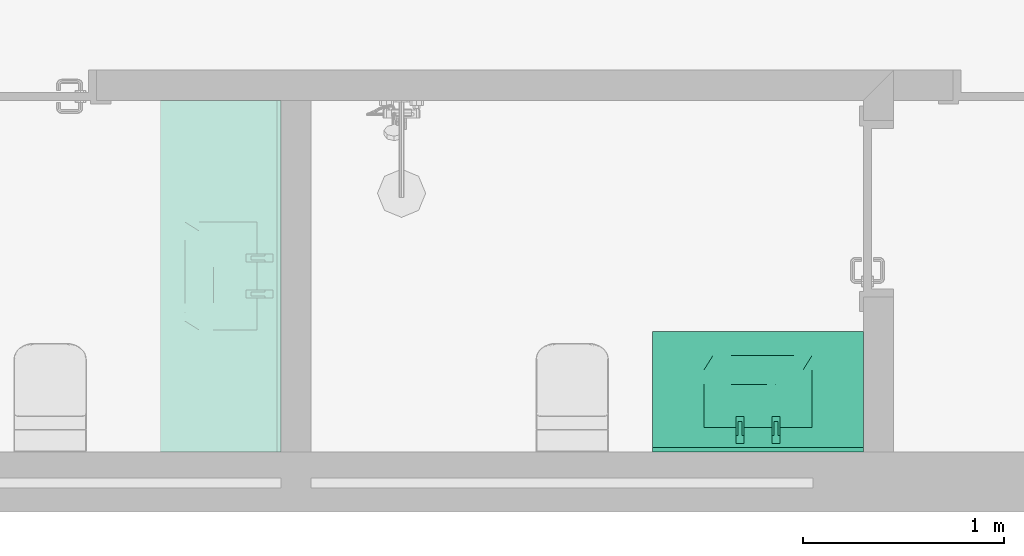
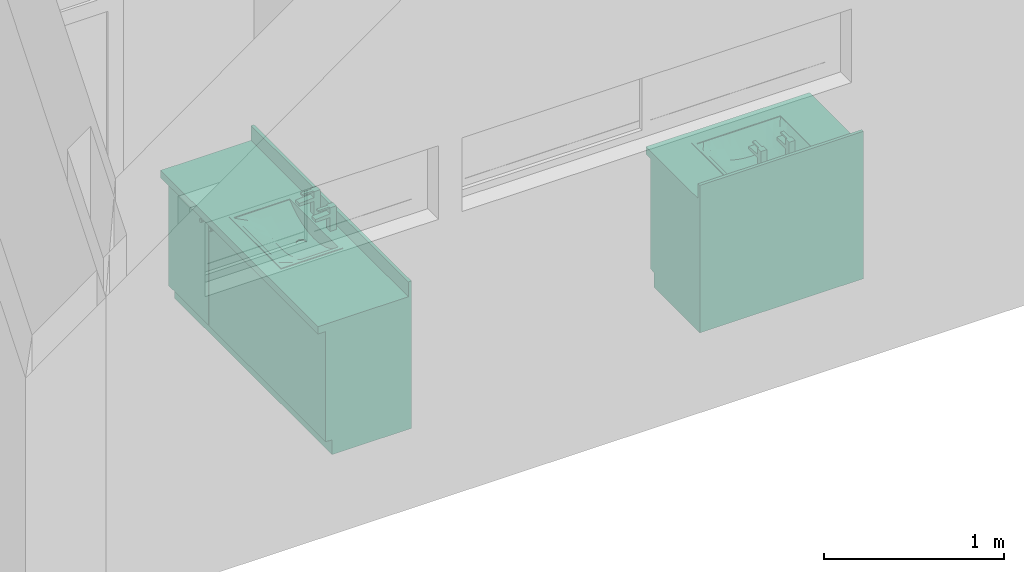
# One storey, part 17 of 26: 2 distribution elements.
"""IFC2X3 building model written with IfcOpenShell, lengths in millimetres."""

from ifc_helpers import new_model, entity, si_unit, converted_unit, money_unit, direction, frame, origin_with_axes, place, context, subcontext, project, spatial, open_shell, faceted_brep, surface_model, material, type_object, element, save


model = new_model("IFC2X3")

# Units and contexts
model_context = context("Model", 3, precision=1e-05, world=origin_with_axes(), true_north=direction((0.0, 1.0)))
body_context = subcontext(model_context, "Body", "Model", "MODEL_VIEW")
ifc_project = project(units=[si_unit("LENGTHUNIT", "METRE", prefix="MILLI"), si_unit("AREAUNIT", "SQUARE_METRE"), si_unit("VOLUMEUNIT", "CUBIC_METRE"), converted_unit("PLANEANGLEUNIT", "DEGREE", entity("IfcPlaneAngleMeasure", 0.0174532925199), si_unit("PLANEANGLEUNIT", "RADIAN"), dimensions=[0, 0, 0, 0, 0, 0, 0]), si_unit("SOLIDANGLEUNIT", "STERADIAN"), money_unit("USD"), converted_unit("TIMEUNIT", "Year", entity("IfcTimeMeasure", 31556926.0), si_unit("TIMEUNIT", "SECOND"), dimensions=[0, 0, 0, 0, 0, 0, 0]), si_unit("MASSUNIT", "GRAM"), si_unit("THERMODYNAMICTEMPERATUREUNIT", "DEGREE_CELSIUS"), si_unit("LUMINOUSINTENSITYUNIT", "LUMEN")], contexts=[model_context])

# Site, building, storey
site_placement = place(None, origin_with_axes())
site = spatial("IfcSite", under=ifc_project, at=site_placement, Name="Grove Residential", CompositionType="ELEMENT")
building_placement = place(site_placement, origin_with_axes())
building = spatial("IfcBuilding", under=site, at=building_placement, Name="Building", CompositionType="ELEMENT")
storey_placement = place(building_placement, origin_with_axes())
storey = spatial("IfcBuildingStorey", under=building, at=storey_placement, Name="Ground Floor", CompositionType="ELEMENT", Elevation=0.0)

# Distribution elements
ifc_material = material(Name="Background")
distribution_element_type = type_object("IfcDistributionElementType", Name="Basin Cabinet 21")
distribution_element_1_placement = place(storey_placement, frame((2050.0, 1900.0, 0.0), z_axis=(0.0, 0.0, 1.0), x_axis=(0.0, -1.0, 0.0)))
element("IfcDistributionElement", 1, at=distribution_element_1_placement, inside=storey, type_object=distribution_element_type, material=ifc_material, Name="FU - 002", context=body_context, shape_type="SurfaceModel", body=[
    faceted_brep([(0.0, 90.0, 0.0), (1750.0, 90.0, 0.0), (1750.0, 90.0, 100.0), (0.0, 90.0, 100.0), (0.0, 600.0, 0.0), (1750.0, 600.0, 0.0), (1750.0, 600.0, 100.0), (0.0, 600.0, 100.0)], [[[0, 1, 2, 3]], [[0, 4, 5, 1]], [[1, 5, 6, 2]], [[3, 2, 6, 7]], [[4, 0, 3, 7]], [[5, 4, 7, 6]]]),
    faceted_brep([(0.0, 70.0, 100.0), (20.0, 70.0, 100.0), (20.0, 70.0, 120.0), (0.0, 70.0, 120.0), (0.0, 600.0, 100.0), (20.0, 600.0, 100.0), (1730.0, 600.0, 100.0), (1750.0, 600.0, 100.0), (1750.0, 70.0, 100.0), (1730.0, 70.0, 100.0), (1730.0, 70.0, 120.0), (1750.0, 70.0, 120.0), (1750.0, 600.0, 120.0), (1730.0, 600.0, 120.0), (20.0, 600.0, 120.0), (0.0, 600.0, 120.0)], [[[0, 1, 2, 3]], [[0, 4, 5, 6, 7, 8, 9, 1]], [[1, 9, 10, 2]], [[3, 2, 10, 11, 12, 13, 14, 15]], [[4, 0, 3, 15]], [[5, 4, 15, 14]], [[6, 5, 14, 13]], [[7, 6, 13, 12]], [[8, 7, 12, 11]], [[9, 8, 11, 10]]]),
    faceted_brep([(0.0, 70.0, 120.0), (20.0, 70.0, 120.0), (20.0, 70.0, 850.0), (0.0, 70.0, 850.0), (0.0, 600.0, 120.0), (1750.0, 600.0, 120.0), (1750.0, 70.0, 120.0), (1730.0, 70.0, 120.0), (1730.0, 580.0, 120.0), (20.0, 580.0, 120.0), (20.0, 580.0, 850.0), (1730.0, 580.0, 850.0), (1730.0, 70.0, 850.0), (1750.0, 70.0, 850.0), (1750.0, 600.0, 850.0), (0.0, 600.0, 850.0)], [[[0, 1, 2, 3]], [[0, 4, 5, 6, 7, 8, 9, 1]], [[1, 9, 10, 2]], [[3, 2, 10, 11, 12, 13, 14, 15]], [[4, 0, 3, 15]], [[5, 4, 15, 14]], [[6, 5, 14, 13]], [[7, 6, 13, 12]], [[8, 7, 12, 11]], [[9, 8, 11, 10]]]),
    faceted_brep([(1730.0, 70.0, 323.333333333), (1730.0, 580.0, 323.333333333), (1730.0, 580.0, 343.333333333), (1730.0, 70.0, 343.333333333), (20.0, 70.0, 323.333333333), (20.0, 580.0, 323.333333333), (20.0, 580.0, 343.333333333), (20.0, 70.0, 343.333333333)], [[[0, 1, 2, 3]], [[0, 4, 5, 1]], [[1, 5, 6, 2]], [[3, 2, 6, 7]], [[4, 0, 3, 7]], [[5, 4, 7, 6]]]),
    faceted_brep([(1730.0, 70.0, 566.666666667), (1730.0, 580.0, 566.666666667), (1730.0, 580.0, 586.666666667), (1730.0, 70.0, 586.666666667), (20.0, 70.0, 566.666666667), (20.0, 580.0, 566.666666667), (20.0, 580.0, 586.666666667), (20.0, 70.0, 586.666666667)], [[[0, 1, 2, 3]], [[0, 4, 5, 1]], [[1, 5, 6, 2]], [[3, 2, 6, 7]], [[4, 0, 3, 7]], [[5, 4, 7, 6]]]),
    faceted_brep([(1750.0, 600.0, 850.0), (1750.0, 0.0, 850.0), (0.0, 0.0, 850.0), (0.0, 600.0, 850.0), (605.0, 120.0, 850.0), (1145.0, 120.0, 850.0), (1145.0, 480.0, 850.0), (605.0, 480.0, 850.0), (1750.0, 600.0, 900.0), (1750.0, 0.0, 900.0), (0.0, 0.0, 900.0), (0.0, 600.0, 900.0), (605.0, 120.0, 900.0), (1145.0, 120.0, 900.0), (1145.0, 480.0, 900.0), (605.0, 480.0, 900.0)], [[[0, 1, 2, 3], [4, 5, 6, 7]], [[8, 9, 1, 0]], [[9, 10, 2, 1]], [[10, 11, 3, 2]], [[11, 8, 0, 3]], [[12, 13, 5, 4]], [[13, 14, 6, 5]], [[14, 15, 7, 6]], [[15, 12, 4, 7]], [[8, 11, 10, 9], [12, 15, 14, 13]]]),
    faceted_brep([(0.0, 580.0, 900.0), (1750.0, 580.0, 900.0), (1750.0, 580.0, 1000.0), (0.0, 580.0, 1000.0), (0.0, 600.0, 900.0), (1750.0, 600.0, 900.0), (1750.0, 600.0, 1000.0), (0.0, 600.0, 1000.0)], [[[0, 1, 2, 3]], [[0, 4, 5, 1]], [[1, 5, 6, 2]], [[3, 2, 6, 7]], [[4, 0, 3, 7]], [[5, 4, 7, 6]]]),
    faceted_brep([(586.0, 101.0, 900.0), (1164.0, 101.0, 900.0), (1164.0, 101.0, 905.0), (586.0, 101.0, 905.0), (586.0, 499.0, 900.0), (1164.0, 499.0, 900.0), (606.0, 121.0, 900.0), (1144.0, 121.0, 900.0), (1144.0, 479.0, 900.0), (606.0, 479.0, 900.0), (1164.0, 499.0, 905.0), (586.0, 499.0, 905.0), (606.0, 121.0, 905.0), (606.0, 479.0, 905.0), (1144.0, 479.0, 905.0), (1144.0, 121.0, 905.0)], [[[0, 1, 2, 3]], [[0, 4, 5, 1], [6, 7, 8, 9]], [[1, 5, 10, 2]], [[3, 2, 10, 11], [12, 13, 14, 15]], [[4, 0, 3, 11]], [[5, 4, 11, 10]], [[7, 6, 12, 15]], [[8, 7, 15, 14]], [[9, 8, 14, 13]], [[6, 9, 13, 12]]]),
    surface_model("IfcShellBasedSurfaceModel", [(847.298862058, 407.4, 801.512410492), (849.019237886, 413.82053, 801.418482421), (860.0, 424.801292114, 800.818961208), (875.0, 428.82053, 800.0), (875.0, 479.0, 800.0), (830.166666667, 479.0, 802.447784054), (830.166666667, 407.4, 802.447784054), (890.0, 424.801292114, 800.818961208), (900.980762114, 413.82053, 801.418482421), (902.701137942, 407.4, 801.512410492), (919.833333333, 407.4, 802.447784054), (919.833333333, 479.0, 802.447784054), (1054.33333333, 479.0, 841.099033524), (1099.16666667, 479.0, 866.359398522), (1144.0, 479.0, 900.0), (606.0, 479.0, 900.0), (650.833333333, 479.0, 866.359398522), (695.666666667, 479.0, 841.099033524), (740.5, 479.0, 822.583844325), (785.333333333, 479.0, 809.880570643), (964.666666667, 479.0, 809.880570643), (1009.5, 479.0, 822.583844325), (785.333333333, 407.4, 809.880570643), (875.0, 368.82053, 800.0), (860.0, 372.839767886, 800.818961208), (849.019237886, 383.82053, 801.418482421), (845.0, 398.82053, 801.637922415), (830.166666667, 335.8, 802.447784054), (875.0, 335.8, 800.0), (905.0, 398.82053, 801.637922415), (900.980762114, 383.82053, 801.418482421), (890.0, 372.839767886, 800.818961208), (919.833333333, 335.8, 802.447784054), (964.666666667, 407.4, 809.880570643), (1054.33333333, 407.4, 841.099033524), (1099.16666667, 407.4, 866.359398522), (1144.0, 407.4, 900.0), (606.0, 407.4, 900.0), (650.833333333, 407.4, 866.359398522), (695.666666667, 407.4, 841.099033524), (740.5, 407.4, 822.583844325), (1009.5, 407.4, 822.583844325), (785.333333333, 335.8, 809.880570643), (830.166666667, 264.2, 813.703778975), (875.0, 264.2, 811.479674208), (964.666666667, 335.8, 809.880570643), (1054.33333333, 335.8, 841.099033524), (1099.16666667, 335.8, 866.359398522), (1144.0, 335.8, 900.0), (1144.0, 264.2, 900.0), (1144.0, 192.6, 900.0), (1144.0, 121.0, 900.0), (606.0, 335.8, 900.0), (606.0, 121.0, 900.0), (606.0, 192.6, 900.0), (606.0, 264.2, 900.0), (650.833333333, 335.8, 866.359398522), (695.666666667, 335.8, 841.099033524), (740.5, 335.8, 822.583844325), (1009.5, 335.8, 822.583844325), (785.333333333, 264.2, 820.44293141), (919.833333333, 264.2, 813.703778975), (1054.33333333, 264.2, 848.489912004), (1099.16666667, 264.2, 870.834422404), (1099.16666667, 192.6, 885.925600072), (1099.16666667, 121.0, 900.0), (650.833333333, 192.6, 885.925600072), (650.833333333, 264.2, 870.834422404), (695.666666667, 264.2, 848.489912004), (740.5, 264.2, 831.908110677), (964.666666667, 264.2, 820.44293141), (1009.5, 264.2, 831.908110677), (785.333333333, 192.6, 859.727879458), (830.166666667, 192.6, 856.053471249), (875.0, 192.6, 854.83231135), (695.666666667, 121.0, 900.0), (650.833333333, 121.0, 900.0), (1054.33333333, 121.0, 900.0), (1009.5, 121.0, 900.0), (964.666666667, 121.0, 900.0), (919.833333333, 121.0, 900.0), (875.0, 121.0, 900.0), (830.166666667, 121.0, 900.0), (785.333333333, 121.0, 900.0), (740.5, 121.0, 900.0), (740.5, 192.6, 865.888816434), (919.833333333, 192.6, 856.053471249), (1009.5, 192.6, 865.888816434), (1054.33333333, 192.6, 874.593452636), (695.666666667, 192.6, 874.593452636), (964.666666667, 192.6, 859.727879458)], [open_shell([[[0, 1, 2, 3, 4, 5, 6]], [[4, 3, 7, 8, 9, 10, 11]], [[12, 13, 14, 15, 16, 17, 18, 19, 5, 4, 11, 20, 21]], [[5, 19, 22, 6]], [[23, 24, 25, 26, 0, 6, 27, 28]], [[9, 29, 30, 31, 23, 28, 32, 10]], [[20, 11, 10, 33]], [[13, 12, 34, 35]], [[14, 13, 35, 36]], [[16, 15, 37, 38]], [[17, 16, 38, 39]], [[18, 17, 39, 40]], [[19, 18, 40, 22]], [[21, 20, 33, 41]], [[12, 21, 41, 34]], [[6, 22, 42, 27]], [[28, 27, 43]], [[32, 28, 44]], [[33, 10, 32, 45]], [[35, 34, 46, 47]], [[36, 35, 47, 48]], [[49, 50, 51, 14, 36, 48]], [[52, 37, 15, 53, 54, 55]], [[38, 37, 52, 56]], [[39, 38, 56, 57]], [[40, 39, 57, 58]], [[22, 40, 58, 42]], [[41, 33, 45, 59]], [[34, 41, 59, 46]], [[27, 42, 60]], [[43, 27, 60]], [[44, 28, 43]], [[61, 32, 44]], [[45, 32, 61]], [[47, 46, 62]], [[48, 47, 63]], [[50, 49, 64]], [[51, 50, 65]], [[49, 48, 63]], [[66, 54, 53]], [[67, 55, 54]], [[56, 52, 55]], [[57, 56, 67]], [[58, 57, 68]], [[42, 58, 69]], [[59, 45, 70]], [[46, 59, 71]], [[60, 42, 69]], [[43, 60, 72]], [[44, 43, 73]], [[61, 44, 74]], [[70, 45, 61]], [[62, 46, 71]], [[63, 47, 62]], [[49, 63, 64]], [[50, 64, 65]], [[75, 76, 53, 51, 65, 77, 78, 79, 80, 81, 82, 83, 84]], [[66, 67, 54]], [[76, 66, 53]], [[67, 56, 55]], [[68, 57, 67]], [[69, 58, 68]], [[71, 59, 70]], [[60, 69, 85]], [[72, 60, 85]], [[73, 43, 72]], [[74, 44, 73]], [[86, 61, 74]], [[70, 61, 86]], [[62, 71, 87]], [[63, 62, 88]], [[64, 63, 88]], [[65, 64, 77]], [[75, 89, 76]], [[77, 88, 78]], [[78, 87, 79]], [[79, 90, 80]], [[80, 86, 81]], [[81, 74, 82]], [[82, 73, 83]], [[83, 72, 84]], [[84, 85, 75]], [[68, 67, 66]], [[89, 66, 76]], [[69, 68, 89]], [[71, 70, 90]], [[85, 69, 89]], [[72, 85, 84]], [[73, 72, 83]], [[74, 73, 82]], [[86, 74, 81]], [[90, 70, 86]], [[87, 71, 90]], [[88, 62, 87]], [[64, 88, 77]], [[85, 89, 75]], [[88, 87, 78]], [[87, 90, 79]], [[90, 86, 80]], [[89, 68, 66]]])]),
    surface_model("IfcShellBasedSurfaceModel", [(900.980762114, 413.82053, 801.418482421), (905.0, 398.82053, 801.637922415), (905.0, 398.82053, 795.0), (900.980762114, 413.82053, 795.0), (900.980762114, 383.82053, 801.418482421), (900.980762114, 383.82053, 795.0), (890.0, 424.801292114, 795.0), (890.0, 372.839767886, 795.0), (875.0, 368.82053, 795.0), (860.0, 372.839767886, 795.0), (849.019237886, 383.82053, 795.0), (845.0, 398.82053, 795.0), (849.019237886, 413.82053, 795.0), (860.0, 424.801292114, 795.0), (875.0, 428.82053, 795.0), (890.0, 424.801292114, 800.818961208), (890.0, 372.839767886, 800.818961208), (875.0, 368.82053, 800.0), (860.0, 372.839767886, 800.818961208), (849.019237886, 383.82053, 801.418482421), (845.0, 398.82053, 801.637922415), (849.019237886, 413.82053, 801.418482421), (860.0, 424.801292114, 800.818961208), (875.0, 428.82053, 800.0)], [open_shell([[[0, 1, 2, 3]], [[1, 4, 5, 2]], [[6, 3, 2, 5, 7, 8, 9, 10, 11, 12, 13, 14]], [[15, 0, 3, 6]], [[4, 16, 7, 5]], [[16, 17, 8, 7]], [[17, 18, 9, 8]], [[18, 19, 10, 9]], [[19, 20, 11, 10]], [[20, 21, 12, 11]], [[21, 22, 13, 12]], [[22, 23, 14, 13]], [[23, 15, 6, 14]]])]),
    faceted_brep([(985.0, 560.0, 900.0), (985.0, 520.0, 900.0), (945.0, 520.0, 900.0), (945.0, 560.0, 900.0), (985.0, 560.0, 1020.0), (985.0, 520.0, 1020.0), (985.0, 425.0, 1013.35695287), (985.0, 425.0, 995.0), (985.0, 520.0, 995.0), (945.0, 520.0, 995.0), (945.0, 425.0, 995.0), (945.0, 425.0, 1013.35695287), (945.0, 520.0, 1020.0), (945.0, 560.0, 1020.0)], [[[0, 1, 2, 3]], [[0, 4, 5, 6, 7, 8, 1]], [[1, 8, 9, 2]], [[3, 2, 9, 10, 11, 12, 13]], [[4, 0, 3, 13]], [[5, 4, 13, 12]], [[6, 5, 12, 11]], [[7, 6, 11, 10]], [[8, 7, 10, 9]]]),
    faceted_brep([(985.0, 560.0, 1020.0), (985.0, 520.0, 1020.0), (945.0, 520.0, 1020.0), (945.0, 560.0, 1020.0), (985.0, 560.0, 1060.0), (985.0, 520.0, 1060.0), (945.0, 520.0, 1060.0), (945.0, 560.0, 1060.0)], [[[0, 1, 2, 3]], [[0, 4, 5, 1]], [[1, 5, 6, 2]], [[3, 2, 6, 7]], [[4, 0, 3, 7]], [[5, 4, 7, 6]]]),
    faceted_brep([(975.0, 520.0, 1050.0), (975.0, 450.0, 1050.0), (955.0, 450.0, 1050.0), (955.0, 520.0, 1050.0), (975.0, 520.0, 1060.0), (975.0, 450.0, 1060.0), (955.0, 450.0, 1060.0), (955.0, 520.0, 1060.0)], [[[0, 1, 2, 3]], [[0, 4, 5, 1]], [[1, 5, 6, 2]], [[3, 2, 6, 7]], [[4, 0, 3, 7]], [[5, 4, 7, 6]]]),
    faceted_brep([(765.0, 560.0, 900.0), (805.0, 560.0, 900.0), (805.0, 520.0, 900.0), (765.0, 520.0, 900.0), (765.0, 560.0, 1020.0), (805.0, 560.0, 1020.0), (805.0, 520.0, 1020.0), (805.0, 425.0, 1013.35695287), (805.0, 425.0, 995.0), (805.0, 520.0, 995.0), (765.0, 520.0, 995.0), (765.0, 425.0, 995.0), (765.0, 425.0, 1013.35695287), (765.0, 520.0, 1020.0)], [[[0, 1, 2, 3]], [[4, 5, 1, 0]], [[1, 5, 6, 7, 8, 9, 2]], [[3, 2, 9, 10]], [[0, 3, 10, 11, 12, 13, 4]], [[13, 6, 5, 4]], [[12, 7, 6, 13]], [[11, 8, 7, 12]], [[10, 9, 8, 11]]]),
    faceted_brep([(765.0, 560.0, 1020.0), (805.0, 560.0, 1020.0), (805.0, 520.0, 1020.0), (765.0, 520.0, 1020.0), (765.0, 560.0, 1060.0), (805.0, 560.0, 1060.0), (805.0, 520.0, 1060.0), (765.0, 520.0, 1060.0)], [[[0, 1, 2, 3]], [[4, 5, 1, 0]], [[1, 5, 6, 2]], [[3, 2, 6, 7]], [[0, 3, 7, 4]], [[7, 6, 5, 4]]]),
    faceted_brep([(775.0, 520.0, 1050.0), (795.0, 520.0, 1050.0), (795.0, 450.0, 1050.0), (775.0, 450.0, 1050.0), (775.0, 520.0, 1060.0), (795.0, 520.0, 1060.0), (795.0, 450.0, 1060.0), (775.0, 450.0, 1060.0)], [[[0, 1, 2, 3]], [[4, 5, 1, 0]], [[1, 5, 6, 2]], [[3, 2, 6, 7]], [[0, 3, 7, 4]], [[7, 6, 5, 4]]]),
    faceted_brep([(1.5, 70.0, 101.5), (448.5, 70.0, 101.5), (448.5, 50.0, 101.5), (1.5, 50.0, 101.5), (1.5, 70.0, 848.5), (448.5, 70.0, 848.5), (448.5, 50.0, 848.5), (1.5, 50.0, 848.5)], [[[0, 1, 2, 3]], [[0, 4, 5, 1]], [[1, 5, 6, 2]], [[3, 2, 6, 7]], [[4, 0, 3, 7]], [[5, 4, 7, 6]]]),
    faceted_brep([(408.892304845, 50.0, 785.5), (404.5, 50.0, 781.107695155), (398.5, 50.0, 779.5), (392.5, 50.0, 781.107695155), (388.107695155, 50.0, 785.5), (386.5, 50.0, 791.5), (388.107695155, 50.0, 797.5), (392.5, 50.0, 801.892304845), (398.5, 50.0, 803.5), (404.5, 50.0, 801.892304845), (408.892304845, 50.0, 797.5), (410.5, 50.0, 791.5), (408.892304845, 25.0, 785.5), (404.5, 25.0, 781.107695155), (398.5, 25.0, 779.5), (392.5, 25.0, 781.107695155), (388.107695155, 25.0, 785.5), (386.5, 25.0, 791.5), (388.107695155, 25.0, 797.5), (392.5, 25.0, 801.892304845), (398.5, 25.0, 803.5), (404.5, 25.0, 801.892304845), (408.892304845, 25.0, 797.5), (410.5, 25.0, 791.5)], [[[0, 1, 2, 3, 4, 5, 6, 7, 8, 9, 10, 11]], [[1, 0, 12, 13]], [[2, 1, 13, 14]], [[3, 2, 14, 15]], [[4, 3, 15, 16]], [[5, 4, 16, 17]], [[6, 5, 17, 18]], [[7, 6, 18, 19]], [[8, 7, 19, 20]], [[9, 8, 20, 21]], [[10, 9, 21, 22]], [[11, 10, 22, 23]], [[0, 11, 23, 12]], [[12, 23, 22, 21, 20, 19, 18, 17, 16, 15, 14, 13]]]),
    faceted_brep([(1748.5, 70.0, 101.5), (1748.5, 50.0, 101.5), (451.5, 50.0, 101.5), (451.5, 70.0, 101.5), (1748.5, 70.0, 848.5), (1748.5, 50.0, 848.5), (451.5, 50.0, 848.5), (451.5, 70.0, 848.5)], [[[0, 1, 2, 3]], [[4, 5, 1, 0]], [[1, 5, 6, 2]], [[3, 2, 6, 7]], [[0, 3, 7, 4]], [[7, 6, 5, 4]]]),
    faceted_brep([(491.107695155, 50.0, 785.5), (489.5, 50.0, 791.5), (491.107695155, 50.0, 797.5), (495.5, 50.0, 801.892304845), (501.5, 50.0, 803.5), (507.5, 50.0, 801.892304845), (511.892304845, 50.0, 797.5), (513.5, 50.0, 791.5), (511.892304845, 50.0, 785.5), (507.5, 50.0, 781.107695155), (501.5, 50.0, 779.5), (495.5, 50.0, 781.107695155), (491.107695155, 25.0, 785.5), (489.5, 25.0, 791.5), (491.107695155, 25.0, 797.5), (495.5, 25.0, 801.892304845), (501.5, 25.0, 803.5), (507.5, 25.0, 801.892304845), (511.892304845, 25.0, 797.5), (513.5, 25.0, 791.5), (511.892304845, 25.0, 785.5), (507.5, 25.0, 781.107695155), (501.5, 25.0, 779.5), (495.5, 25.0, 781.107695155)], [[[0, 1, 2, 3, 4, 5, 6, 7, 8, 9, 10, 11]], [[0, 12, 13, 1]], [[1, 13, 14, 2]], [[2, 14, 15, 3]], [[3, 15, 16, 4]], [[4, 16, 17, 5]], [[5, 17, 18, 6]], [[6, 18, 19, 7]], [[7, 19, 20, 8]], [[8, 20, 21, 9]], [[9, 21, 22, 10]], [[10, 22, 23, 11]], [[11, 23, 12, 0]], [[12, 23, 22, 21, 20, 19, 18, 17, 16, 15, 14, 13]]]),
])
distribution_element_2_placement = place(storey_placement, frame((5550.0, 750.0, 0.0), z_axis=(0.0, 0.0, 1.0), x_axis=(-1.0, 0.0, 0.0)))
element("IfcDistributionElement", 2, at=distribution_element_2_placement, inside=storey, type_object=distribution_element_type, material=ifc_material, Name="FU - 002", context=body_context, shape_type="SurfaceModel", body=[
    faceted_brep([(0.0, 90.0, 0.0), (1050.0, 90.0, 0.0), (1050.0, 90.0, 100.0), (0.0, 90.0, 100.0), (0.0, 600.0, 0.0), (1050.0, 600.0, 0.0), (1050.0, 600.0, 100.0), (0.0, 600.0, 100.0)], [[[0, 1, 2, 3]], [[0, 4, 5, 1]], [[1, 5, 6, 2]], [[3, 2, 6, 7]], [[4, 0, 3, 7]], [[5, 4, 7, 6]]]),
    faceted_brep([(0.0, 70.0, 100.0), (20.0, 70.0, 100.0), (20.0, 70.0, 120.0), (0.0, 70.0, 120.0), (0.0, 600.0, 100.0), (20.0, 600.0, 100.0), (1030.0, 600.0, 100.0), (1050.0, 600.0, 100.0), (1050.0, 70.0, 100.0), (1030.0, 70.0, 100.0), (1030.0, 70.0, 120.0), (1050.0, 70.0, 120.0), (1050.0, 600.0, 120.0), (1030.0, 600.0, 120.0), (20.0, 600.0, 120.0), (0.0, 600.0, 120.0)], [[[0, 1, 2, 3]], [[0, 4, 5, 6, 7, 8, 9, 1]], [[1, 9, 10, 2]], [[3, 2, 10, 11, 12, 13, 14, 15]], [[4, 0, 3, 15]], [[5, 4, 15, 14]], [[6, 5, 14, 13]], [[7, 6, 13, 12]], [[8, 7, 12, 11]], [[9, 8, 11, 10]]]),
    faceted_brep([(0.0, 70.0, 120.0), (20.0, 70.0, 120.0), (20.0, 70.0, 850.0), (0.0, 70.0, 850.0), (0.0, 600.0, 120.0), (1050.0, 600.0, 120.0), (1050.0, 70.0, 120.0), (1030.0, 70.0, 120.0), (1030.0, 580.0, 120.0), (20.0, 580.0, 120.0), (20.0, 580.0, 850.0), (1030.0, 580.0, 850.0), (1030.0, 70.0, 850.0), (1050.0, 70.0, 850.0), (1050.0, 600.0, 850.0), (0.0, 600.0, 850.0)], [[[0, 1, 2, 3]], [[0, 4, 5, 6, 7, 8, 9, 1]], [[1, 9, 10, 2]], [[3, 2, 10, 11, 12, 13, 14, 15]], [[4, 0, 3, 15]], [[5, 4, 15, 14]], [[6, 5, 14, 13]], [[7, 6, 13, 12]], [[8, 7, 12, 11]], [[9, 8, 11, 10]]]),
    faceted_brep([(1030.0, 70.0, 323.333333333), (1030.0, 580.0, 323.333333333), (1030.0, 580.0, 343.333333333), (1030.0, 70.0, 343.333333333), (20.0, 70.0, 323.333333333), (20.0, 580.0, 323.333333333), (20.0, 580.0, 343.333333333), (20.0, 70.0, 343.333333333)], [[[0, 1, 2, 3]], [[0, 4, 5, 1]], [[1, 5, 6, 2]], [[3, 2, 6, 7]], [[4, 0, 3, 7]], [[5, 4, 7, 6]]]),
    faceted_brep([(1030.0, 70.0, 566.666666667), (1030.0, 580.0, 566.666666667), (1030.0, 580.0, 586.666666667), (1030.0, 70.0, 586.666666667), (20.0, 70.0, 566.666666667), (20.0, 580.0, 566.666666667), (20.0, 580.0, 586.666666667), (20.0, 70.0, 586.666666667)], [[[0, 1, 2, 3]], [[0, 4, 5, 1]], [[1, 5, 6, 2]], [[3, 2, 6, 7]], [[4, 0, 3, 7]], [[5, 4, 7, 6]]]),
    faceted_brep([(1050.0, 600.0, 850.0), (1050.0, 0.0, 850.0), (0.0, 0.0, 850.0), (0.0, 600.0, 850.0), (255.0, 120.0, 850.0), (795.0, 120.0, 850.0), (795.0, 480.0, 850.0), (255.0, 480.0, 850.0), (1050.0, 600.0, 900.0), (1050.0, 0.0, 900.0), (0.0, 0.0, 900.0), (0.0, 600.0, 900.0), (255.0, 120.0, 900.0), (795.0, 120.0, 900.0), (795.0, 480.0, 900.0), (255.0, 480.0, 900.0)], [[[0, 1, 2, 3], [4, 5, 6, 7]], [[8, 9, 1, 0]], [[9, 10, 2, 1]], [[10, 11, 3, 2]], [[11, 8, 0, 3]], [[12, 13, 5, 4]], [[13, 14, 6, 5]], [[14, 15, 7, 6]], [[15, 12, 4, 7]], [[8, 11, 10, 9], [12, 15, 14, 13]]]),
    faceted_brep([(0.0, 580.0, 900.0), (1050.0, 580.0, 900.0), (1050.0, 580.0, 1000.0), (0.0, 580.0, 1000.0), (0.0, 600.0, 900.0), (1050.0, 600.0, 900.0), (1050.0, 600.0, 1000.0), (0.0, 600.0, 1000.0)], [[[0, 1, 2, 3]], [[0, 4, 5, 1]], [[1, 5, 6, 2]], [[3, 2, 6, 7]], [[4, 0, 3, 7]], [[5, 4, 7, 6]]]),
    faceted_brep([(236.0, 101.0, 900.0), (814.0, 101.0, 900.0), (814.0, 101.0, 905.0), (236.0, 101.0, 905.0), (236.0, 499.0, 900.0), (814.0, 499.0, 900.0), (256.0, 121.0, 900.0), (794.0, 121.0, 900.0), (794.0, 479.0, 900.0), (256.0, 479.0, 900.0), (814.0, 499.0, 905.0), (236.0, 499.0, 905.0), (256.0, 121.0, 905.0), (256.0, 479.0, 905.0), (794.0, 479.0, 905.0), (794.0, 121.0, 905.0)], [[[0, 1, 2, 3]], [[0, 4, 5, 1], [6, 7, 8, 9]], [[1, 5, 10, 2]], [[3, 2, 10, 11], [12, 13, 14, 15]], [[4, 0, 3, 11]], [[5, 4, 11, 10]], [[7, 6, 12, 15]], [[8, 7, 15, 14]], [[9, 8, 14, 13]], [[6, 9, 13, 12]]]),
    surface_model("IfcShellBasedSurfaceModel", [(497.298862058, 407.4, 801.512410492), (499.019237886, 413.82053, 801.418482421), (510.0, 424.801292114, 800.818961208), (525.0, 428.82053, 800.0), (525.0, 479.0, 800.0), (480.166666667, 479.0, 802.447784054), (480.166666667, 407.4, 802.447784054), (540.0, 424.801292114, 800.818961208), (550.980762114, 413.82053, 801.418482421), (552.701137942, 407.4, 801.512410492), (569.833333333, 407.4, 802.447784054), (569.833333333, 479.0, 802.447784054), (704.333333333, 479.0, 841.099033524), (749.166666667, 479.0, 866.359398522), (794.0, 479.0, 900.0), (256.0, 479.0, 900.0), (300.833333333, 479.0, 866.359398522), (345.666666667, 479.0, 841.099033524), (390.5, 479.0, 822.583844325), (435.333333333, 479.0, 809.880570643), (614.666666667, 479.0, 809.880570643), (659.5, 479.0, 822.583844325), (435.333333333, 407.4, 809.880570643), (525.0, 368.82053, 800.0), (510.0, 372.839767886, 800.818961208), (499.019237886, 383.82053, 801.418482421), (495.0, 398.82053, 801.637922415), (480.166666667, 335.8, 802.447784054), (525.0, 335.8, 800.0), (555.0, 398.82053, 801.637922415), (550.980762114, 383.82053, 801.418482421), (540.0, 372.839767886, 800.818961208), (569.833333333, 335.8, 802.447784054), (614.666666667, 407.4, 809.880570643), (704.333333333, 407.4, 841.099033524), (749.166666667, 407.4, 866.359398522), (794.0, 407.4, 900.0), (256.0, 407.4, 900.0), (300.833333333, 407.4, 866.359398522), (345.666666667, 407.4, 841.099033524), (390.5, 407.4, 822.583844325), (659.5, 407.4, 822.583844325), (435.333333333, 335.8, 809.880570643), (480.166666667, 264.2, 813.703778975), (525.0, 264.2, 811.479674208), (614.666666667, 335.8, 809.880570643), (704.333333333, 335.8, 841.099033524), (749.166666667, 335.8, 866.359398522), (794.0, 335.8, 900.0), (794.0, 264.2, 900.0), (794.0, 192.6, 900.0), (794.0, 121.0, 900.0), (256.0, 335.8, 900.0), (256.0, 121.0, 900.0), (256.0, 192.6, 900.0), (256.0, 264.2, 900.0), (300.833333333, 335.8, 866.359398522), (345.666666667, 335.8, 841.099033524), (390.5, 335.8, 822.583844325), (659.5, 335.8, 822.583844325), (435.333333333, 264.2, 820.44293141), (569.833333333, 264.2, 813.703778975), (704.333333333, 264.2, 848.489912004), (749.166666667, 264.2, 870.834422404), (749.166666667, 192.6, 885.925600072), (749.166666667, 121.0, 900.0), (300.833333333, 192.6, 885.925600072), (300.833333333, 264.2, 870.834422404), (345.666666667, 264.2, 848.489912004), (390.5, 264.2, 831.908110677), (614.666666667, 264.2, 820.44293141), (659.5, 264.2, 831.908110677), (435.333333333, 192.6, 859.727879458), (480.166666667, 192.6, 856.053471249), (525.0, 192.6, 854.83231135), (345.666666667, 121.0, 900.0), (300.833333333, 121.0, 900.0), (704.333333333, 121.0, 900.0), (659.5, 121.0, 900.0), (614.666666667, 121.0, 900.0), (569.833333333, 121.0, 900.0), (525.0, 121.0, 900.0), (480.166666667, 121.0, 900.0), (435.333333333, 121.0, 900.0), (390.5, 121.0, 900.0), (390.5, 192.6, 865.888816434), (569.833333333, 192.6, 856.053471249), (659.5, 192.6, 865.888816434), (704.333333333, 192.6, 874.593452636), (345.666666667, 192.6, 874.593452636), (614.666666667, 192.6, 859.727879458)], [open_shell([[[0, 1, 2, 3, 4, 5, 6]], [[4, 3, 7, 8, 9, 10, 11]], [[12, 13, 14, 15, 16, 17, 18, 19, 5, 4, 11, 20, 21]], [[5, 19, 22, 6]], [[23, 24, 25, 26, 0, 6, 27, 28]], [[9, 29, 30, 31, 23, 28, 32, 10]], [[20, 11, 10, 33]], [[13, 12, 34, 35]], [[14, 13, 35, 36]], [[16, 15, 37, 38]], [[17, 16, 38, 39]], [[18, 17, 39, 40]], [[19, 18, 40, 22]], [[21, 20, 33, 41]], [[12, 21, 41, 34]], [[6, 22, 42, 27]], [[28, 27, 43]], [[32, 28, 44]], [[33, 10, 32, 45]], [[35, 34, 46, 47]], [[36, 35, 47, 48]], [[49, 50, 51, 14, 36, 48]], [[52, 37, 15, 53, 54, 55]], [[38, 37, 52, 56]], [[39, 38, 56, 57]], [[40, 39, 57, 58]], [[22, 40, 58, 42]], [[41, 33, 45, 59]], [[34, 41, 59, 46]], [[27, 42, 60]], [[43, 27, 60]], [[44, 28, 43]], [[61, 32, 44]], [[45, 32, 61]], [[47, 46, 62]], [[48, 47, 63]], [[50, 49, 64]], [[51, 50, 65]], [[49, 48, 63]], [[66, 54, 53]], [[67, 55, 54]], [[56, 52, 55]], [[57, 56, 67]], [[58, 57, 68]], [[42, 58, 69]], [[59, 45, 70]], [[46, 59, 71]], [[60, 42, 69]], [[43, 60, 72]], [[44, 43, 73]], [[61, 44, 74]], [[70, 45, 61]], [[62, 46, 71]], [[63, 47, 62]], [[49, 63, 64]], [[50, 64, 65]], [[75, 76, 53, 51, 65, 77, 78, 79, 80, 81, 82, 83, 84]], [[66, 67, 54]], [[76, 66, 53]], [[67, 56, 55]], [[68, 57, 67]], [[69, 58, 68]], [[71, 59, 70]], [[60, 69, 85]], [[72, 60, 85]], [[73, 43, 72]], [[74, 44, 73]], [[86, 61, 74]], [[70, 61, 86]], [[62, 71, 87]], [[63, 62, 88]], [[64, 63, 88]], [[65, 64, 77]], [[75, 89, 76]], [[77, 88, 78]], [[78, 87, 79]], [[79, 90, 80]], [[80, 86, 81]], [[81, 74, 82]], [[82, 73, 83]], [[83, 72, 84]], [[84, 85, 75]], [[68, 67, 66]], [[89, 66, 76]], [[69, 68, 89]], [[71, 70, 90]], [[85, 69, 89]], [[72, 85, 84]], [[73, 72, 83]], [[74, 73, 82]], [[86, 74, 81]], [[90, 70, 86]], [[87, 71, 90]], [[88, 62, 87]], [[64, 88, 77]], [[85, 89, 75]], [[88, 87, 78]], [[87, 90, 79]], [[90, 86, 80]], [[89, 68, 66]]])]),
    surface_model("IfcShellBasedSurfaceModel", [(550.980762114, 413.82053, 801.418482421), (555.0, 398.82053, 801.637922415), (555.0, 398.82053, 795.0), (550.980762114, 413.82053, 795.0), (550.980762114, 383.82053, 801.418482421), (550.980762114, 383.82053, 795.0), (540.0, 424.801292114, 795.0), (540.0, 372.839767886, 795.0), (525.0, 368.82053, 795.0), (510.0, 372.839767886, 795.0), (499.019237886, 383.82053, 795.0), (495.0, 398.82053, 795.0), (499.019237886, 413.82053, 795.0), (510.0, 424.801292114, 795.0), (525.0, 428.82053, 795.0), (540.0, 424.801292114, 800.818961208), (540.0, 372.839767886, 800.818961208), (525.0, 368.82053, 800.0), (510.0, 372.839767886, 800.818961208), (499.019237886, 383.82053, 801.418482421), (495.0, 398.82053, 801.637922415), (499.019237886, 413.82053, 801.418482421), (510.0, 424.801292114, 800.818961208), (525.0, 428.82053, 800.0)], [open_shell([[[0, 1, 2, 3]], [[1, 4, 5, 2]], [[6, 3, 2, 5, 7, 8, 9, 10, 11, 12, 13, 14]], [[15, 0, 3, 6]], [[4, 16, 7, 5]], [[16, 17, 8, 7]], [[17, 18, 9, 8]], [[18, 19, 10, 9]], [[19, 20, 11, 10]], [[20, 21, 12, 11]], [[21, 22, 13, 12]], [[22, 23, 14, 13]], [[23, 15, 6, 14]]])]),
    faceted_brep([(635.0, 560.0, 900.0), (635.0, 520.0, 900.0), (595.0, 520.0, 900.0), (595.0, 560.0, 900.0), (635.0, 560.0, 1020.0), (635.0, 520.0, 1020.0), (635.0, 425.0, 1013.35695287), (635.0, 425.0, 995.0), (635.0, 520.0, 995.0), (595.0, 520.0, 995.0), (595.0, 425.0, 995.0), (595.0, 425.0, 1013.35695287), (595.0, 520.0, 1020.0), (595.0, 560.0, 1020.0)], [[[0, 1, 2, 3]], [[0, 4, 5, 6, 7, 8, 1]], [[1, 8, 9, 2]], [[3, 2, 9, 10, 11, 12, 13]], [[4, 0, 3, 13]], [[5, 4, 13, 12]], [[6, 5, 12, 11]], [[7, 6, 11, 10]], [[8, 7, 10, 9]]]),
    faceted_brep([(635.0, 560.0, 1020.0), (635.0, 520.0, 1020.0), (595.0, 520.0, 1020.0), (595.0, 560.0, 1020.0), (635.0, 560.0, 1060.0), (635.0, 520.0, 1060.0), (595.0, 520.0, 1060.0), (595.0, 560.0, 1060.0)], [[[0, 1, 2, 3]], [[0, 4, 5, 1]], [[1, 5, 6, 2]], [[3, 2, 6, 7]], [[4, 0, 3, 7]], [[5, 4, 7, 6]]]),
    faceted_brep([(625.0, 520.0, 1050.0), (625.0, 450.0, 1050.0), (605.0, 450.0, 1050.0), (605.0, 520.0, 1050.0), (625.0, 520.0, 1060.0), (625.0, 450.0, 1060.0), (605.0, 450.0, 1060.0), (605.0, 520.0, 1060.0)], [[[0, 1, 2, 3]], [[0, 4, 5, 1]], [[1, 5, 6, 2]], [[3, 2, 6, 7]], [[4, 0, 3, 7]], [[5, 4, 7, 6]]]),
    faceted_brep([(415.0, 560.0, 900.0), (455.0, 560.0, 900.0), (455.0, 520.0, 900.0), (415.0, 520.0, 900.0), (415.0, 560.0, 1020.0), (455.0, 560.0, 1020.0), (455.0, 520.0, 1020.0), (455.0, 425.0, 1013.35695287), (455.0, 425.0, 995.0), (455.0, 520.0, 995.0), (415.0, 520.0, 995.0), (415.0, 425.0, 995.0), (415.0, 425.0, 1013.35695287), (415.0, 520.0, 1020.0)], [[[0, 1, 2, 3]], [[4, 5, 1, 0]], [[1, 5, 6, 7, 8, 9, 2]], [[3, 2, 9, 10]], [[0, 3, 10, 11, 12, 13, 4]], [[13, 6, 5, 4]], [[12, 7, 6, 13]], [[11, 8, 7, 12]], [[10, 9, 8, 11]]]),
    faceted_brep([(415.0, 560.0, 1020.0), (455.0, 560.0, 1020.0), (455.0, 520.0, 1020.0), (415.0, 520.0, 1020.0), (415.0, 560.0, 1060.0), (455.0, 560.0, 1060.0), (455.0, 520.0, 1060.0), (415.0, 520.0, 1060.0)], [[[0, 1, 2, 3]], [[4, 5, 1, 0]], [[1, 5, 6, 2]], [[3, 2, 6, 7]], [[0, 3, 7, 4]], [[7, 6, 5, 4]]]),
    faceted_brep([(425.0, 520.0, 1050.0), (445.0, 520.0, 1050.0), (445.0, 450.0, 1050.0), (425.0, 450.0, 1050.0), (425.0, 520.0, 1060.0), (445.0, 520.0, 1060.0), (445.0, 450.0, 1060.0), (425.0, 450.0, 1060.0)], [[[0, 1, 2, 3]], [[4, 5, 1, 0]], [[1, 5, 6, 2]], [[3, 2, 6, 7]], [[0, 3, 7, 4]], [[7, 6, 5, 4]]]),
    faceted_brep([(1.5, 70.0, 101.5), (448.5, 70.0, 101.5), (448.5, 50.0, 101.5), (1.5, 50.0, 101.5), (1.5, 70.0, 848.5), (448.5, 70.0, 848.5), (448.5, 50.0, 848.5), (1.5, 50.0, 848.5)], [[[0, 1, 2, 3]], [[0, 4, 5, 1]], [[1, 5, 6, 2]], [[3, 2, 6, 7]], [[4, 0, 3, 7]], [[5, 4, 7, 6]]]),
    faceted_brep([(408.892304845, 50.0, 785.5), (404.5, 50.0, 781.107695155), (398.5, 50.0, 779.5), (392.5, 50.0, 781.107695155), (388.107695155, 50.0, 785.5), (386.5, 50.0, 791.5), (388.107695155, 50.0, 797.5), (392.5, 50.0, 801.892304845), (398.5, 50.0, 803.5), (404.5, 50.0, 801.892304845), (408.892304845, 50.0, 797.5), (410.5, 50.0, 791.5), (408.892304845, 25.0, 785.5), (404.5, 25.0, 781.107695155), (398.5, 25.0, 779.5), (392.5, 25.0, 781.107695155), (388.107695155, 25.0, 785.5), (386.5, 25.0, 791.5), (388.107695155, 25.0, 797.5), (392.5, 25.0, 801.892304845), (398.5, 25.0, 803.5), (404.5, 25.0, 801.892304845), (408.892304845, 25.0, 797.5), (410.5, 25.0, 791.5)], [[[0, 1, 2, 3, 4, 5, 6, 7, 8, 9, 10, 11]], [[1, 0, 12, 13]], [[2, 1, 13, 14]], [[3, 2, 14, 15]], [[4, 3, 15, 16]], [[5, 4, 16, 17]], [[6, 5, 17, 18]], [[7, 6, 18, 19]], [[8, 7, 19, 20]], [[9, 8, 20, 21]], [[10, 9, 21, 22]], [[11, 10, 22, 23]], [[0, 11, 23, 12]], [[12, 23, 22, 21, 20, 19, 18, 17, 16, 15, 14, 13]]]),
    faceted_brep([(1048.5, 70.0, 101.5), (1048.5, 50.0, 101.5), (451.5, 50.0, 101.5), (451.5, 70.0, 101.5), (1048.5, 70.0, 848.5), (1048.5, 50.0, 848.5), (451.5, 50.0, 848.5), (451.5, 70.0, 848.5)], [[[0, 1, 2, 3]], [[4, 5, 1, 0]], [[1, 5, 6, 2]], [[3, 2, 6, 7]], [[0, 3, 7, 4]], [[7, 6, 5, 4]]]),
    faceted_brep([(491.107695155, 50.0, 785.5), (489.5, 50.0, 791.5), (491.107695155, 50.0, 797.5), (495.5, 50.0, 801.892304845), (501.5, 50.0, 803.5), (507.5, 50.0, 801.892304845), (511.892304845, 50.0, 797.5), (513.5, 50.0, 791.5), (511.892304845, 50.0, 785.5), (507.5, 50.0, 781.107695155), (501.5, 50.0, 779.5), (495.5, 50.0, 781.107695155), (491.107695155, 25.0, 785.5), (489.5, 25.0, 791.5), (491.107695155, 25.0, 797.5), (495.5, 25.0, 801.892304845), (501.5, 25.0, 803.5), (507.5, 25.0, 801.892304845), (511.892304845, 25.0, 797.5), (513.5, 25.0, 791.5), (511.892304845, 25.0, 785.5), (507.5, 25.0, 781.107695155), (501.5, 25.0, 779.5), (495.5, 25.0, 781.107695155)], [[[0, 1, 2, 3, 4, 5, 6, 7, 8, 9, 10, 11]], [[0, 12, 13, 1]], [[1, 13, 14, 2]], [[2, 14, 15, 3]], [[3, 15, 16, 4]], [[4, 16, 17, 5]], [[5, 17, 18, 6]], [[6, 18, 19, 7]], [[7, 19, 20, 8]], [[8, 20, 21, 9]], [[9, 21, 22, 10]], [[10, 22, 23, 11]], [[11, 23, 12, 0]], [[12, 23, 22, 21, 20, 19, 18, 17, 16, 15, 14, 13]]]),
])

save(model, "model.ifc")
